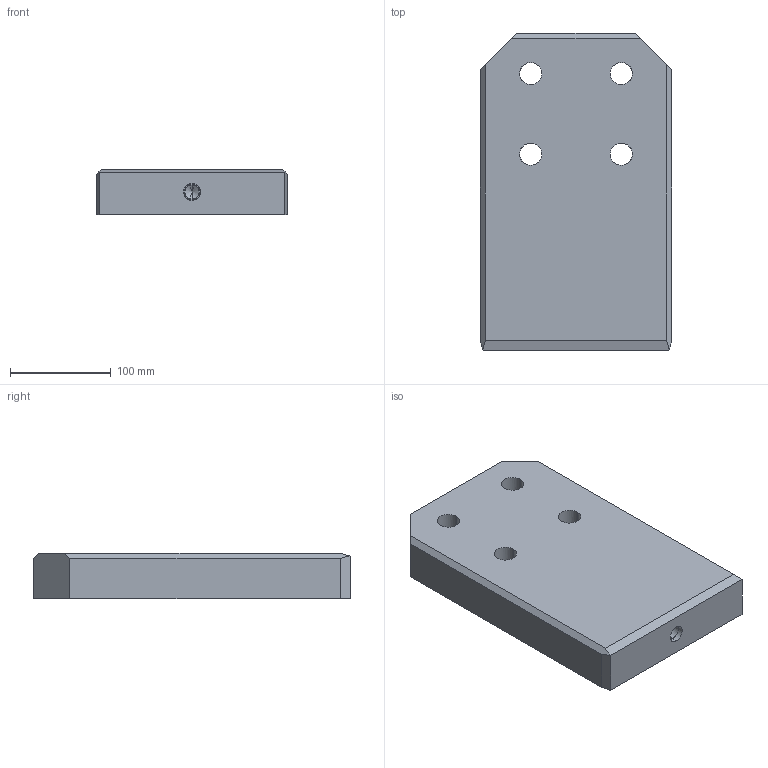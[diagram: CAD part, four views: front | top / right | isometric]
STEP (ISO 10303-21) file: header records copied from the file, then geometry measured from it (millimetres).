
FILE_DESCRIPTION(('CATIA V5 STEP Exchange'),'2;1');
FILE_NAME('C:\Users\borellobunino\Desktop\3D X SITO CF\A927\GSB_OILLESS_G2290519031545\STEP-2.03\A927-190X315X45.stp','2019-07-15T19:48:37+00:00',('none'),('none'),'CATIA Version 5 Release 20 GA (IN-10)','CATIA V5 STEP AP203','none');
FILE_SCHEMA(('CONFIG_CONTROL_DESIGN'));
Length unit declared in the file: millimetre
Products named in the file (1): A927-190X315X45
Bounding box: 190 x 315 x 45 mm (x, y, z)
Volume: 2496339.4 mm3; surface area: 172617.9 mm2
Topology: 1 solids, 1 shells, 52 faces, 134 edges, 89 vertices
Faces by surface type: cylinder 22, plane 20, cone 10
Entity records: 2048 total; most frequent: CARTESIAN_POINT 784, ORIENTED_EDGE 264, DIRECTION 206, EDGE_CURVE 132, VERTEX_POINT 89, AXIS2_PLACEMENT_3D 87, VECTOR 68, LINE 68
